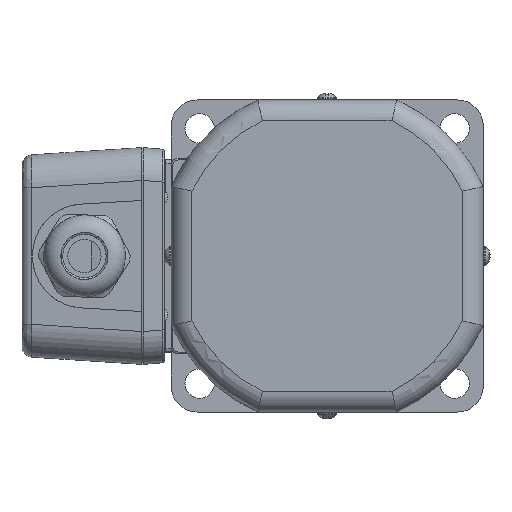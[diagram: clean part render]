
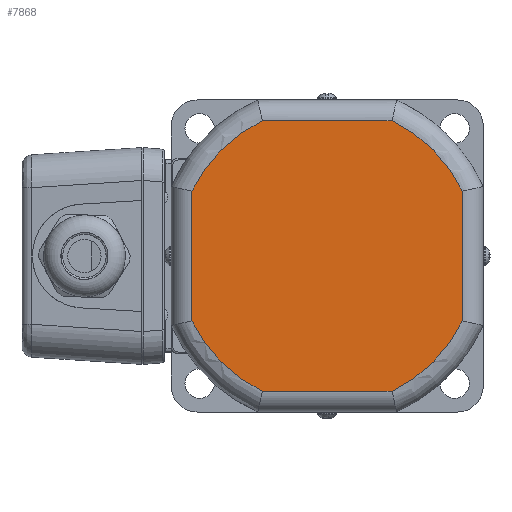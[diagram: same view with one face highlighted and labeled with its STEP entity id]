
A CAD part, left-side view. The second image highlights one B-rep face of the part: STEP entity #7868.
In plain terms, the highlighted planar face has unit normal (-1, 0, 0).
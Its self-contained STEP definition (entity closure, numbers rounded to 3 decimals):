
#450=LINE('',#12092,#1029);
#451=LINE('',#12096,#1030);
#452=LINE('',#12100,#1031);
#453=LINE('',#12104,#1032);
#1029=VECTOR('',#9370,37.393);
#1030=VECTOR('',#9373,37.393);
#1031=VECTOR('',#9376,37.393);
#1032=VECTOR('',#9379,37.393);
#1857=FACE_OUTER_BOUND('',#2356,.T.);
#2356=EDGE_LOOP('',(#5296,#5297,#5298,#5299,#5300,#5301,#5302,#5303));
#2867=CIRCLE('',#8403,43.25);
#2868=CIRCLE('',#8404,43.25);
#2869=CIRCLE('',#8405,43.25);
#2870=CIRCLE('',#8406,43.25);
#3216=VERTEX_POINT('',#12090);
#3217=VERTEX_POINT('',#12091);
#3218=VERTEX_POINT('',#12093);
#3219=VERTEX_POINT('',#12095);
#3220=VERTEX_POINT('',#12097);
#3221=VERTEX_POINT('',#12099);
#3222=VERTEX_POINT('',#12101);
#3223=VERTEX_POINT('',#12103);
#4015=EDGE_CURVE('',#3216,#3217,#450,.T.);
#4016=EDGE_CURVE('',#3218,#3216,#2867,.T.);
#4017=EDGE_CURVE('',#3219,#3218,#451,.T.);
#4018=EDGE_CURVE('',#3220,#3219,#2868,.T.);
#4019=EDGE_CURVE('',#3221,#3220,#452,.T.);
#4020=EDGE_CURVE('',#3222,#3221,#2869,.T.);
#4021=EDGE_CURVE('',#3223,#3222,#453,.T.);
#4022=EDGE_CURVE('',#3217,#3223,#2870,.T.);
#5296=ORIENTED_EDGE('',*,*,#4015,.F.);
#5297=ORIENTED_EDGE('',*,*,#4016,.F.);
#5298=ORIENTED_EDGE('',*,*,#4017,.F.);
#5299=ORIENTED_EDGE('',*,*,#4018,.F.);
#5300=ORIENTED_EDGE('',*,*,#4019,.F.);
#5301=ORIENTED_EDGE('',*,*,#4020,.F.);
#5302=ORIENTED_EDGE('',*,*,#4021,.F.);
#5303=ORIENTED_EDGE('',*,*,#4022,.F.);
#7133=PLANE('',#8402);
#7868=ADVANCED_FACE('',(#1857),#7133,.F.);
#8402=AXIS2_PLACEMENT_3D('',#12089,#9368,#9369);
#8403=AXIS2_PLACEMENT_3D('',#12094,#9371,#9372);
#8404=AXIS2_PLACEMENT_3D('',#12098,#9374,#9375);
#8405=AXIS2_PLACEMENT_3D('',#12102,#9377,#9378);
#8406=AXIS2_PLACEMENT_3D('',#12105,#9380,#9381);
#9368=DIRECTION('center_axis',(1.,0.,0.));
#9369=DIRECTION('ref_axis',(0.,1.,0.));
#9370=DIRECTION('',(0.,-1.,0.));
#9371=DIRECTION('center_axis',(1.,0.,0.));
#9372=DIRECTION('ref_axis',(0.,0.707,0.707));
#9373=DIRECTION('',(0.,0.,1.));
#9374=DIRECTION('center_axis',(1.,0.,0.));
#9375=DIRECTION('ref_axis',(0.,0.707,-0.707));
#9376=DIRECTION('',(0.,1.,0.));
#9377=DIRECTION('center_axis',(1.,0.,0.));
#9378=DIRECTION('ref_axis',(0.,-0.707,-0.707));
#9379=DIRECTION('',(0.,0.,-1.));
#9380=DIRECTION('center_axis',(1.,0.,0.));
#9381=DIRECTION('ref_axis',(0.,-0.707,0.707));
#12089=CARTESIAN_POINT('Origin',(-17.8,0.,
0.));
#12090=CARTESIAN_POINT('',(-17.8,18.697,39.));
#12091=CARTESIAN_POINT('',(-17.8,-18.697,39.));
#12092=CARTESIAN_POINT('',(-17.8,18.697,39.));
#12093=CARTESIAN_POINT('',(-17.8,39.,18.697));
#12094=CARTESIAN_POINT('Origin',(-17.8,0.,
0.));
#12095=CARTESIAN_POINT('',(-17.8,39.,-18.697));
#12096=CARTESIAN_POINT('',(-17.8,39.,-18.697));
#12097=CARTESIAN_POINT('',(-17.8,18.697,-39.));
#12098=CARTESIAN_POINT('Origin',(-17.8,0.,
0.));
#12099=CARTESIAN_POINT('',(-17.8,-18.697,-39.));
#12100=CARTESIAN_POINT('',(-17.8,-18.697,-39.));
#12101=CARTESIAN_POINT('',(-17.8,-39.,-18.697));
#12102=CARTESIAN_POINT('Origin',(-17.8,0.,
0.));
#12103=CARTESIAN_POINT('',(-17.8,-39.,18.697));
#12104=CARTESIAN_POINT('',(-17.8,-39.,18.697));
#12105=CARTESIAN_POINT('Origin',(-17.8,0.,
0.));
